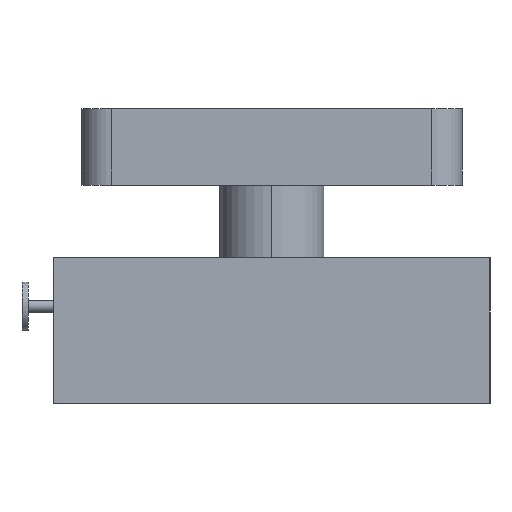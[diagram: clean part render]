
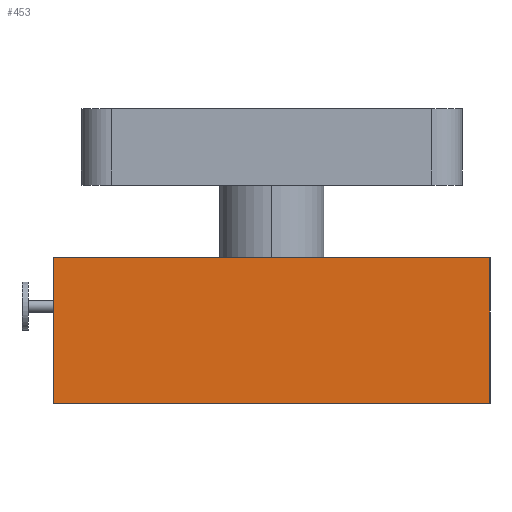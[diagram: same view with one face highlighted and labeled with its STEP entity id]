
A CAD part, left-side view. The second image highlights one B-rep face of the part: STEP entity #453.
In plain terms, the highlighted planar face has unit normal (-1, 0, 0).
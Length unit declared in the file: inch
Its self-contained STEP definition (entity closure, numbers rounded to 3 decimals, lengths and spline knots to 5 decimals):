
#56=DIRECTION('',(0.,-1.,0.));
#57=VECTOR('',#56,3.6);
#58=CARTESIAN_POINT('',(-2.32,1.8,-1.23));
#59=LINE('',#58,#57);
#72=DIRECTION('',(0.,0.,1.));
#73=VECTOR('',#72,1.2);
#74=CARTESIAN_POINT('',(-2.32,1.8,-2.43));
#75=LINE('',#74,#73);
#76=DIRECTION('',(0.,0.,1.));
#77=VECTOR('',#76,1.2);
#78=CARTESIAN_POINT('',(-2.32,-1.8,-2.43));
#79=LINE('',#78,#77);
#98=DIRECTION('',(0.,1.,0.));
#99=VECTOR('',#98,3.6);
#100=CARTESIAN_POINT('',(-2.32,-1.8,-2.43));
#101=LINE('',#100,#99);
#337=CARTESIAN_POINT('',(-2.32,1.8,-1.23));
#338=CARTESIAN_POINT('',(-2.32,-1.8,-1.23));
#339=VERTEX_POINT('',#337);
#340=VERTEX_POINT('',#338);
#345=CARTESIAN_POINT('',(-2.32,-1.8,-2.43));
#346=CARTESIAN_POINT('',(-2.32,1.8,-2.43));
#347=VERTEX_POINT('',#345);
#348=VERTEX_POINT('',#346);
#439=CARTESIAN_POINT('',(-2.32,1.8,-1.23));
#440=DIRECTION('',(-1.,0.,0.));
#441=DIRECTION('',(0.,-1.,0.));
#442=AXIS2_PLACEMENT_3D('',#439,#440,#441);
#443=PLANE('',#442);
#444=ORIENTED_EDGE('',*,*,#423,.T.);
#446=ORIENTED_EDGE('',*,*,#445,.F.);
#448=ORIENTED_EDGE('',*,*,#447,.T.);
#450=ORIENTED_EDGE('',*,*,#449,.T.);
#451=EDGE_LOOP('',(#444,#446,#448,#450));
#452=FACE_OUTER_BOUND('',#451,.F.);
#453=ADVANCED_FACE('',(#452),#443,.T.);
#423=EDGE_CURVE('',#339,#340,#59,.T.);
#445=EDGE_CURVE('',#347,#340,#79,.T.);
#447=EDGE_CURVE('',#347,#348,#101,.T.);
#449=EDGE_CURVE('',#348,#339,#75,.T.);
